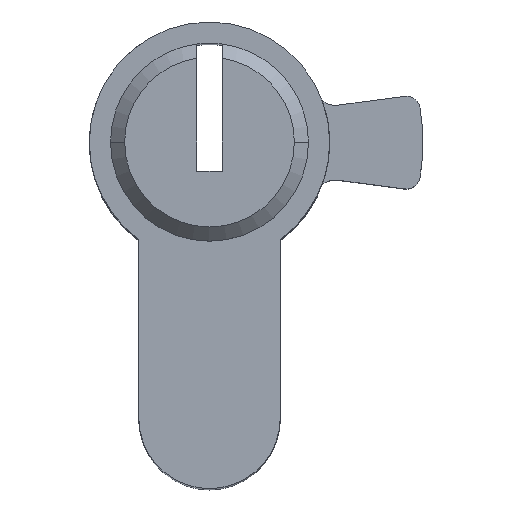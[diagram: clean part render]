
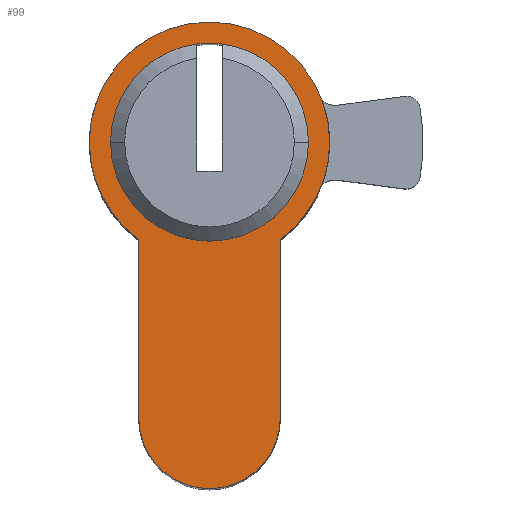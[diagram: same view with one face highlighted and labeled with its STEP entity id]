
A CAD part, top view. The second image highlights one B-rep face of the part: STEP entity #99.
In plain terms, the highlighted planar face has unit normal (0, 0, 1).
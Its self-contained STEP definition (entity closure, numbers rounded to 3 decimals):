
#5 = DIRECTION ( 'NONE',  ( 0., 0., 1. ) ) ;
#6 = ORIENTED_EDGE ( 'NONE', *, *, #500, .T. ) ;
#16 = DIRECTION ( 'NONE',  ( 1., 0., 0. ) ) ;
#42 = ORIENTED_EDGE ( 'NONE', *, *, #563, .T. ) ;
#45 = DIRECTION ( 'NONE',  ( 1., 0., 0. ) ) ;
#89 = AXIS2_PLACEMENT_3D ( 'NONE', #1256, #1540, #1113 ) ;
#99 = ADVANCED_FACE ( 'NONE', ( #1203, #520 ), #948, .T. ) ;
#130 = EDGE_CURVE ( 'NONE', #202, #229, #1688, .T. ) ;
#163 = CARTESIAN_POINT ( 'NONE',  ( 5., -6.874, 23. ) ) ;
#168 = ORIENTED_EDGE ( 'NONE', *, *, #1684, .F. ) ;
#182 = ORIENTED_EDGE ( 'NONE', *, *, #1315, .T. ) ;
#196 = AXIS2_PLACEMENT_3D ( 'NONE', #1194, #249, #788 ) ;
#202 = VERTEX_POINT ( 'NONE', #1112 ) ;
#211 = EDGE_CURVE ( 'NONE', #1060, #202, #1740, .T. ) ;
#216 = DIRECTION ( 'NONE',  ( 1., 0., 0. ) ) ;
#228 = AXIS2_PLACEMENT_3D ( 'NONE', #295, #580, #45 ) ;
#229 = VERTEX_POINT ( 'NONE', #1642 ) ;
#241 = CARTESIAN_POINT ( 'NONE',  ( -5., -6.874, 23. ) ) ;
#249 = DIRECTION ( 'NONE',  ( 0., 0., 1. ) ) ;
#284 = VERTEX_POINT ( 'NONE', #446 ) ;
#295 = CARTESIAN_POINT ( 'NONE',  ( 0., 0., 23. ) ) ;
#323 = EDGE_CURVE ( 'NONE', #905, #284, #676, .T. ) ;
#389 = DIRECTION ( 'NONE',  ( 0., 0., 1. ) ) ;
#393 = VERTEX_POINT ( 'NONE', #753 ) ;
#411 = VERTEX_POINT ( 'NONE', #1678 ) ;
#446 = CARTESIAN_POINT ( 'NONE',  ( 0.9, 6.942, 23. ) ) ;
#471 = DIRECTION ( 'NONE',  ( 0., 1., 0. ) ) ;
#498 = ORIENTED_EDGE ( 'NONE', *, *, #697, .F. ) ;
#500 = EDGE_CURVE ( 'NONE', #229, #926, #595, .T. ) ;
#520 = FACE_OUTER_BOUND ( 'NONE', #1335, .T. ) ;
#525 = CARTESIAN_POINT ( 'NONE',  ( 0., 0., 23. ) ) ;
#535 = DIRECTION ( 'NONE',  ( 1., 0., 0. ) ) ;
#538 = CARTESIAN_POINT ( 'NONE',  ( 0., 0., 23. ) ) ;
#540 = ORIENTED_EDGE ( 'NONE', *, *, #323, .F. ) ;
#563 = EDGE_CURVE ( 'NONE', #926, #411, #1447, .T. ) ;
#567 = AXIS2_PLACEMENT_3D ( 'NONE', #757, #1323, #16 ) ;
#580 = DIRECTION ( 'NONE',  ( 0., 0., 1. ) ) ;
#582 = ORIENTED_EDGE ( 'NONE', *, *, #130, .T. ) ;
#588 = CARTESIAN_POINT ( 'NONE',  ( -7., 0., 23. ) ) ;
#595 = CIRCLE ( 'NONE', #771, 8.5 ) ;
#621 = CARTESIAN_POINT ( 'NONE',  ( 0., 0., 23. ) ) ;
#648 = VECTOR ( 'NONE', #1363, 1000. ) ;
#662 = CARTESIAN_POINT ( 'NONE',  ( 7., 0., 23. ) ) ;
#668 = ORIENTED_EDGE ( 'NONE', *, *, #714, .T. ) ;
#676 = CIRCLE ( 'NONE', #1011, 7. ) ;
#697 = EDGE_CURVE ( 'NONE', #393, #1386, #1040, .T. ) ;
#714 = EDGE_CURVE ( 'NONE', #1235, #1060, #1138, .T. ) ;
#724 = CARTESIAN_POINT ( 'NONE',  ( 0., 0., 23. ) ) ;
#753 = CARTESIAN_POINT ( 'NONE',  ( -0.9, 6.942, 23. ) ) ;
#757 = CARTESIAN_POINT ( 'NONE',  ( 0., 0., 23. ) ) ;
#771 = AXIS2_PLACEMENT_3D ( 'NONE', #1213, #1371, #535 ) ;
#788 = DIRECTION ( 'NONE',  ( 1., 0., 0. ) ) ;
#820 = CIRCLE ( 'NONE', #567, 7. ) ;
#845 = ORIENTED_EDGE ( 'NONE', *, *, #211, .T. ) ;
#905 = VERTEX_POINT ( 'NONE', #662 ) ;
#916 = CARTESIAN_POINT ( 'NONE',  ( 5., -19.5, 23. ) ) ;
#926 = VERTEX_POINT ( 'NONE', #1327 ) ;
#929 = CIRCLE ( 'NONE', #1300, 7. ) ;
#948 = PLANE ( 'NONE',  #1344 ) ;
#1011 = AXIS2_PLACEMENT_3D ( 'NONE', #621, #1422, #1429 ) ;
#1040 = CIRCLE ( 'NONE', #1605, 7. ) ;
#1060 = VERTEX_POINT ( 'NONE', #163 ) ;
#1061 = DIRECTION ( 'NONE',  ( 1., 0., 0. ) ) ;
#1112 = CARTESIAN_POINT ( 'NONE',  ( 8.5, 0., 23. ) ) ;
#1113 = DIRECTION ( 'NONE',  ( 1., 0., 0. ) ) ;
#1138 = LINE ( 'NONE', #1676, #1349 ) ;
#1185 = EDGE_CURVE ( 'NONE', #284, #393, #820, .T. ) ;
#1194 = CARTESIAN_POINT ( 'NONE',  ( 0., 0., 23. ) ) ;
#1203 = FACE_BOUND ( 'NONE', #1552, .T. ) ;
#1213 = CARTESIAN_POINT ( 'NONE',  ( 0., 0., 23. ) ) ;
#1235 = VERTEX_POINT ( 'NONE', #916 ) ;
#1256 = CARTESIAN_POINT ( 'NONE',  ( 0., -19.5, 23. ) ) ;
#1300 = AXIS2_PLACEMENT_3D ( 'NONE', #525, #5, #1061 ) ;
#1302 = ORIENTED_EDGE ( 'NONE', *, *, #1185, .F. ) ;
#1315 = EDGE_CURVE ( 'NONE', #411, #1235, #1439, .T. ) ;
#1323 = DIRECTION ( 'NONE',  ( 0., 0., 1. ) ) ;
#1327 = CARTESIAN_POINT ( 'NONE',  ( -5., -6.874, 23. ) ) ;
#1335 = EDGE_LOOP ( 'NONE', ( #845, #582, #6, #42, #182, #668 ) ) ;
#1344 = AXIS2_PLACEMENT_3D ( 'NONE', #538, #389, #1597 ) ;
#1349 = VECTOR ( 'NONE', #471, 1000. ) ;
#1363 = DIRECTION ( 'NONE',  ( 0., -1., 0. ) ) ;
#1371 = DIRECTION ( 'NONE',  ( 0., 0., 1. ) ) ;
#1386 = VERTEX_POINT ( 'NONE', #588 ) ;
#1392 = DIRECTION ( 'NONE',  ( 0., 0., 1. ) ) ;
#1422 = DIRECTION ( 'NONE',  ( 0., 0., 1. ) ) ;
#1429 = DIRECTION ( 'NONE',  ( 1., 0., 0. ) ) ;
#1439 = CIRCLE ( 'NONE', #89, 5. ) ;
#1447 = LINE ( 'NONE', #241, #648 ) ;
#1540 = DIRECTION ( 'NONE',  ( 0., 0., 1. ) ) ;
#1552 = EDGE_LOOP ( 'NONE', ( #1302, #540, #168, #498 ) ) ;
#1597 = DIRECTION ( 'NONE',  ( 1., 0., 0. ) ) ;
#1605 = AXIS2_PLACEMENT_3D ( 'NONE', #724, #1392, #216 ) ;
#1642 = CARTESIAN_POINT ( 'NONE',  ( -8.5, 0., 23. ) ) ;
#1676 = CARTESIAN_POINT ( 'NONE',  ( 5., -19.5, 23. ) ) ;
#1678 = CARTESIAN_POINT ( 'NONE',  ( -5., -19.5, 23. ) ) ;
#1684 = EDGE_CURVE ( 'NONE', #1386, #905, #929, .T. ) ;
#1688 = CIRCLE ( 'NONE', #196, 8.5 ) ;
#1740 = CIRCLE ( 'NONE', #228, 8.5 ) ;
